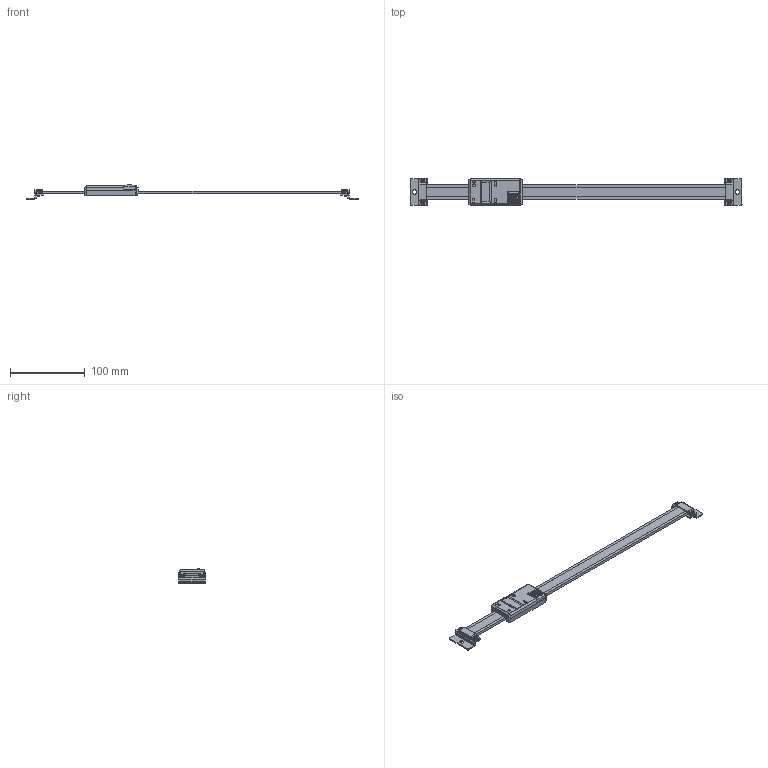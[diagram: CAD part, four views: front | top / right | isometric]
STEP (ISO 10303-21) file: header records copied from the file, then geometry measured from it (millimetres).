
FILE_DESCRIPTION(('Creo Elements/Direct Modeling STEP Export'),'2;1');
FILE_NAME('572-303-10_SDV-30D.stp','2019-10-15T13:01:17',(''),(''),'Creo Elements/Direct Modeling STEP processor for AP214 (Solid Model)','Creo Elements/Direct Modeling 18.1I 13-Aug-2016 (C) Parametric Technology GmbH','');
FILE_SCHEMA(('AUTOMOTIVE_DESIGN { 1 0 10303 214 1 1 1 1 }'));
Length unit declared in the file: millimetre
Products named in the file (5): Holder.2; Beam; Slider; Holder.1; 572-303-10_SDV-30D
Assembly tree (4 placements, depth 2):
  572-303-10_SDV-30D
    Holder.1
    Slider
    Beam
    Holder.2
Bounding box: 444 x 36 x 19.27 mm (x, y, z)
Volume: 62282.9 mm3; surface area: 40100.6 mm2
Topology: 4 solids, 4 shells, 732 faces, 1895 edges, 1193 vertices
Faces by surface type: plane 342, cylinder 197, bspline 123, extrusion 34, cone 24, torus 12
Entity records: 37609 total; most frequent: CARTESIAN_POINT 20729, ORIENTED_EDGE 3790, DIRECTION 2790, EDGE_CURVE 1895, VERTEX_POINT 1193, VECTOR 1096, LINE 1066, AXIS2_PLACEMENT_3D 847
